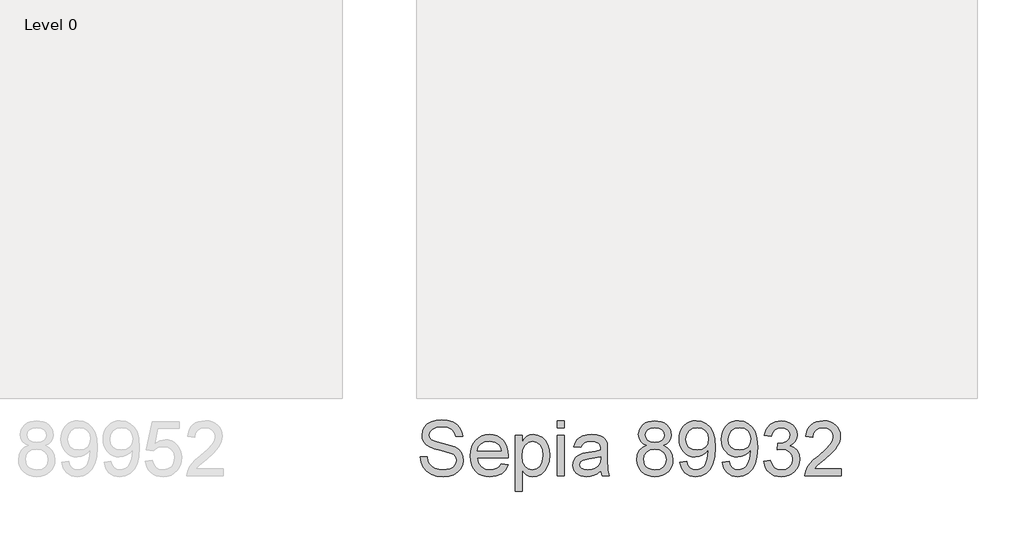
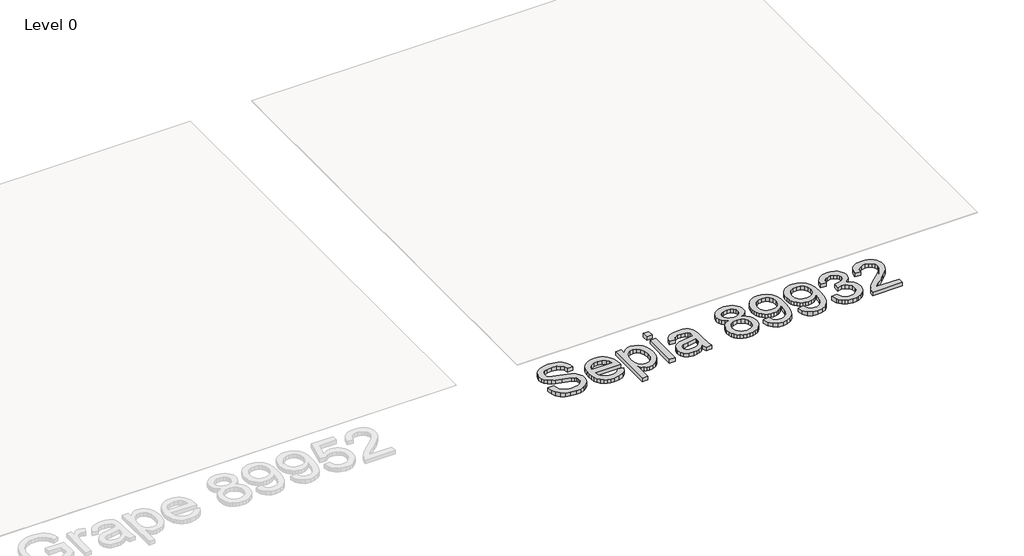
# One storey, part 4 of 4: 1 proxy.
"""IFC4 building model written with IfcOpenShell, lengths in millimetres."""

from ifc_helpers import new_model, si_unit, origin, origin_with_axes, place, context, project, spatial, polyline, outline, extrude, element, save

model = new_model("IFC4")

# Units and contexts
model_context = context("Model", 3, world=origin())
ifc_project = project(units=[si_unit("LENGTHUNIT", "METRE", prefix="MILLI")], contexts=[model_context])

# Site, building, storey
site = spatial("IfcSite", under=ifc_project)
building = spatial("IfcBuilding", under=site)
storey = spatial("IfcBuildingStorey", under=building, Name="Level 0", Elevation=0.0)

# Proxy
placement = place(None, origin())
element("IfcBuildingElementProxy", 1, Name="300mm Arial", ObjectType="300mm Arial", at=placement, inside=storey, context=model_context, shape_type="SweptSolid", body=[
    extrude(outline(polyline([(10071.9359991, 2245.9115217), (10108.859076, 2245.9115217), (10113.0958548, 2225.4217381), (10120.7581145, 2208.9523871), (10132.7112395, 2195.8814737), (10149.8206145, 2185.5870025), (10170.734076, 2178.907315), (10194.0994606, 2176.6807525), (10214.6703741, 2178.3664496), (10232.6811914, 2183.423541), (10247.2755423, 2191.4283487), (10257.5970568, 2201.9571948), (10263.7358789, 2214.0455362), (10265.7821529, 2226.7288294), (10264.249701, 2239.0876035), (10259.6523452, 2249.7696948), (10250.3134029, 2258.8832766), (10234.5561914, 2266.5365217), (10180.7941721, 2280.6350794), (10145.5027058, 2289.9650073), (10122.921576, 2298.8442141), (10104.5411673, 2311.2660891), (10091.515326, 2326.3201756), (10083.7539077, 2343.6819544), (10081.1667683, 2363.0269064), (10084.3668885, 2384.6525073), (10093.9672491, 2404.8177717), (10109.7154462, 2421.9091179), (10131.359076, 2434.3129641), (10157.3386433, 2441.8580362), (10186.0946529, 2444.3730602), (10217.2484991, 2441.7408487), (10244.5081145, 2433.8442141), (10266.8999414, 2420.845416), (10283.4504221, 2402.9067141), (10293.9251818, 2381.1458967), (10298.0898452, 2356.6807525), (10261.1667683, 2356.6807525), (10254.3879221, 2378.7120025), (10240.2533068, 2394.6134448), (10218.1679702, 2404.2408487), (10187.5369606, 2407.4499833), (10156.1847971, 2404.2769064), (10134.6763837, 2394.7576756), (10122.2364798, 2380.7492621), (10118.0898452, 2364.1086371), (10121.0285471, 2349.9199352), (10129.8446529, 2338.5076756), (10150.6859991, 2328.3033487), (10190.1331145, 2317.8826756), (10255.4696529, 2299.3490217), (10276.5183308, 2285.9535891), (10291.202826, 2269.4211371), (10299.8296289, 2249.9319544), (10302.7052298, 2227.6663294), (10299.3969366, 2204.9049112), (10289.4720568, 2183.4956564), (10273.3362395, 2165.0701756), (10251.3951337, 2151.2600794), (10225.0099173, 2142.6332766), (10195.5417683, 2139.7576756), (10159.3668885, 2142.8586371), (10129.5922491, 2152.1615217), (10105.875302, 2167.7023871), (10087.8734991, 2189.517291), (10076.3170087, 2216.0918102), (10071.9359991, 2245.9115217)])), origin_with_axes(), (0.0, 0.0, 1.0), 25.0),
    extrude(outline(polyline([(10505.3494606, 2208.9884448), (10541.5513837, 2204.3730602), (10528.5075135, 2177.095416), (10507.6932106, 2156.704791), (10479.577225, 2143.9944544), (10444.6283068, 2139.7576756), (10421.7181505, 2141.5853499), (10401.3049895, 2147.0683727), (10383.3888236, 2156.2067441), (10367.9696529, 2169.0004641), (10355.570314, 2185.0934629), (10346.7136433, 2204.1296708), (10341.3996409, 2226.1090879), (10339.6283068, 2251.0317141), (10341.4176697, 2276.7994424), (10346.7857587, 2299.5112814), (10355.7325736, 2319.1672309), (10368.2581145, 2335.767291), (10383.6367202, 2348.9553919), (10401.1427298, 2358.3754641), (10420.7761433, 2364.0275073), (10442.5369606, 2365.9115217), (10463.5969065, 2364.0320145), (10482.6421289, 2358.3934929), (10499.6726277, 2348.9959568), (10514.6884029, 2335.8394064), (10526.9457647, 2319.275404), (10535.7010231, 2299.6555121), (10540.9541782, 2276.9797309), (10542.7052298, 2251.2480602), (10542.4888837, 2241.2961371), (10376.5513837, 2241.2961371), (10382.9426096, 2213.657916), (10397.7893645, 2193.3394064), (10419.2166481, 2180.845416), (10445.3494606, 2176.6807525), (10465.0009029, 2178.6098391), (10481.5513837, 2184.3970987), (10495.0009029, 2194.4031083), (10505.3494606, 2208.9884448)]), holes=[polyline([(10376.5513837, 2278.2192141), (10505.7821529, 2278.2192141), (10500.7881625, 2297.7264256), (10490.9984991, 2311.6807525), (10469.4720568, 2324.6615217), (10442.3927298, 2328.9884448), (10417.5039077, 2325.5359208), (10396.9239798, 2315.1783487), (10382.6180904, 2299.0335169), (10376.5513837, 2278.2192141)])]), origin_with_axes(), (0.0, 0.0, 1.0), 25.0),
    extrude(outline(polyline([(10579.6283068, 2061.2961371), (10579.6283068, 2361.2961371), (10616.5513837, 2361.2961371), (10616.5513837, 2325.0942141), (10628.5946529, 2342.9517862), (10642.0802298, 2355.7071948), (10657.8013837, 2363.36044), (10676.5513837, 2365.9115217), (10701.5213356, 2362.3418102), (10723.3542683, 2351.6326756), (10741.1307106, 2334.4331564), (10753.9311914, 2311.392291), (10761.6655664, 2284.1867621), (10764.2436914, 2254.4932525), (10761.3320327, 2222.9157285), (10752.5970568, 2194.673541), (10738.3182106, 2171.1999833), (10718.7749414, 2153.9283487), (10696.0135231, 2143.3003439), (10672.0802298, 2139.7576756), (10655.1060712, 2142.1284689), (10639.952826, 2149.2408487), (10626.9810712, 2159.9770266), (10616.5513837, 2173.2192141), (10616.5513837, 2061.2961371), (10579.6283068, 2061.2961371)]), holes=[polyline([(10616.5513837, 2251.1038294), (10620.5447731, 2218.0028679), (10632.5249414, 2194.8538294), (10650.202225, 2181.2240217), (10671.2869606, 2176.6807525), (10692.7142443, 2181.3862814), (10710.8422491, 2195.5028679), (10723.2010231, 2219.4992621), (10727.3206145, 2253.8442141), (10723.3001818, 2286.7648871), (10711.2388837, 2310.2384448), (10693.5886433, 2324.3009448), (10672.8013837, 2328.9884448), (10651.9329943, 2324.0034689), (10633.6066721, 2309.048541), (10620.8152058, 2284.5924112), (10616.5513837, 2251.1038294)])]), origin_with_axes(), (0.0, 0.0, 1.0), 25.0),
    extrude(outline(polyline([(10805.7821529, 2402.8345987), (10805.7821529, 2439.7576756), (10842.7052298, 2439.7576756), (10842.7052298, 2402.8345987), (10805.7821529, 2402.8345987)])), origin_with_axes(), (0.0, 0.0, 1.0), 25.0),
    extrude(outline(polyline([(10805.7821529, 2144.3730602), (10805.7821529, 2361.2961371), (10842.7052298, 2361.2961371), (10842.7052298, 2144.3730602), (10805.7821529, 2144.3730602)])), origin_with_axes(), (0.0, 0.0, 1.0), 25.0),
    extrude(outline(polyline([(11036.5513837, 2172.0653679), (11018.9101577, 2156.939166), (11000.7460952, 2147.0413294), (10981.6445327, 2141.5785891), (10961.1908068, 2139.7576756), (10930.3344366, 2144.1386852), (10907.5730183, 2157.2817141), (10893.5375616, 2177.2396467), (10888.859076, 2202.0653679), (10890.6259029, 2217.3718583), (10895.9263837, 2231.2720987), (10904.1024654, 2243.1711371), (10914.4960952, 2252.4740217), (10940.3494606, 2264.5894064), (10972.296576, 2270.142291), (11010.0489798, 2275.9836371), (11036.3350375, 2282.8345987), (11036.5513837, 2291.0557525), (11034.0093164, 2307.5341179), (11026.3831145, 2318.3153679), (11009.327826, 2326.3201756), (10985.5658068, 2328.9884448), (10963.5706145, 2327.2126035), (10948.2100375, 2321.8850794), (10937.7352779, 2312.032315), (10930.3975375, 2296.6807525), (10893.4744606, 2301.2961371), (10899.8837154, 2321.4884448), (10909.4480183, 2337.3538294), (10923.0597971, 2349.4872429), (10941.6114798, 2358.4836371), (10964.3007827, 2364.0545506), (10990.3254221, 2365.9115217), (11015.2863596, 2364.2708967), (11035.0730183, 2359.3490217), (11049.9918885, 2351.9481804), (11060.3494606, 2342.8706564), (11067.218451, 2331.6476996), (11071.671576, 2317.8105602), (11073.4744606, 2285.5028679), (11073.4744606, 2239.5653679), (11075.3494606, 2175.4187333), (11082.7052298, 2144.3730602), (11045.7821529, 2144.3730602), (11036.5513837, 2172.0653679)]), holes=[polyline([(11036.5513837, 2245.9115217), (10976.984076, 2234.5894064), (10945.2172491, 2228.6038294), (10930.8302298, 2218.8682525), (10925.7821529, 2204.6615217), (10928.531552, 2193.6819544), (10936.7797491, 2184.6855602), (10950.3464558, 2178.6819544), (10969.0513837, 2176.6807525), (10988.8831145, 2178.8892862), (11006.4071529, 2185.5148871), (11020.6138837, 2195.2775073), (11030.4936914, 2206.8970987), (11034.874701, 2218.8682525), (11036.3350375, 2235.454791), (11036.5513837, 2245.9115217)])]), origin_with_axes(), (0.0, 0.0, 1.0), 25.0),
    extrude(outline(polyline([(11284.1956145, 2307.0653679), (11264.4269846, 2316.8009448), (11250.5537875, 2329.9980602), (11242.359677, 2346.3862814), (11239.6283068, 2365.6951756), (11245.577826, 2394.5593583), (11263.4263837, 2418.4115217), (11276.3125015, 2427.7504641), (11291.1727779, 2434.4211371), (11326.8158068, 2439.7576756), (11362.6751818, 2434.2949352), (11377.6977178, 2427.4665097), (11390.7821529, 2417.9067141), (11408.9552298, 2393.6759448), (11413.4984991, 2379.7757044), (11415.0129221, 2364.6855602), (11412.3176096, 2345.9986612), (11404.2316721, 2329.8898871), (11390.6649654, 2316.7739016), (11371.5273452, 2307.0653679), (11394.2527058, 2295.3556323), (11410.7941721, 2278.111041), (11420.8813116, 2256.1609208), (11424.2436914, 2230.3345987), (11422.5760231, 2211.9181323), (11417.5730183, 2195.0341179), (11409.234677, 2179.6825554), (11397.5609991, 2165.8634448), (11383.1649654, 2154.4421708), (11366.6595568, 2146.2841179), (11348.0447731, 2141.3892862), (11327.3206145, 2139.7576756), (11306.5964558, 2141.396047), (11287.9816721, 2146.3111612), (11271.4762635, 2154.5030181), (11257.0802298, 2165.9716179), (11245.406552, 2179.8876335), (11237.0682106, 2195.4217381), (11232.0652058, 2212.5739316), (11230.3975375, 2231.3442141), (11233.8951337, 2258.1711371), (11244.3879221, 2280.2384448), (11261.3350375, 2296.7889256), (11284.1956145, 2307.0653679)]), holes=[polyline([(11267.3206145, 2232.642291), (11273.4864798, 2204.8418102), (11282.0231385, 2192.9157285), (11295.3013837, 2184.0365217), (11311.202826, 2178.5196948), (11327.609076, 2176.6807525), (11352.7412875, 2180.54794), (11371.5994606, 2192.1495025), (11383.390326, 2209.7186131), (11387.3206145, 2231.4884448), (11383.2641241, 2253.6278679), (11371.0946529, 2271.5845987), (11351.8037875, 2283.4836371), (11326.3831145, 2287.4499833), (11301.6024654, 2283.5377237), (11282.9335952, 2271.8009448), (11271.2238596, 2254.1867621), (11267.3206145, 2232.642291)]), polyline([(11276.5513837, 2364.6134448), (11279.8236193, 2348.4956564), (11289.640326, 2335.6230602), (11305.7130423, 2327.1855602), (11327.7533068, 2324.3730602), (11349.2797491, 2327.1675314), (11365.109076, 2335.5509448), (11374.8446529, 2347.9908487), (11378.0898452, 2362.954791), (11374.7364798, 2378.4866419), (11364.6763837, 2391.3321948), (11348.6307106, 2399.9589977), (11327.3206145, 2402.8345987), (11305.875302, 2400.0220987), (11289.8566721, 2391.5845987), (11279.8777058, 2379.2168102), (11276.5513837, 2364.6134448)])]), origin_with_axes(), (0.0, 0.0, 1.0), 25.0),
    extrude(outline(polyline([(11461.1667683, 2218.2192141), (11498.0898452, 2222.8345987), (11504.3999414, 2201.876065), (11514.6763837, 2187.6062333), (11528.6667683, 2179.4121227), (11546.1186914, 2176.6807525), (11561.7767443, 2178.438565), (11576.0105183, 2183.7120025), (11587.8374414, 2191.9241419), (11596.2749414, 2202.4980602), (11608.3542683, 2234.5894064), (11613.6908068, 2277.4259448), (11613.4744606, 2284.6374833), (11600.6829943, 2269.0245025), (11583.9432106, 2256.6567141), (11564.4630423, 2248.5978198), (11543.4504221, 2245.9115217), (11525.9106084, 2247.5521467), (11509.781552, 2252.4740217), (11495.0632527, 2260.6771467), (11481.7557106, 2272.1615217), (11470.7288176, 2286.3276876), (11462.8524654, 2302.5761852), (11458.1266541, 2320.9070145), (11456.5513837, 2341.3201756), (11458.2032767, 2362.4139256), (11463.1589558, 2381.3442141), (11471.4184209, 2398.111041), (11482.9816721, 2412.7144064), (11497.0329041, 2424.5458367), (11512.7563116, 2432.9968583), (11530.1518945, 2438.0674713), (11549.2196529, 2439.7576756), (11576.7587154, 2435.8995025), (11601.827826, 2424.3249833), (11622.7953741, 2405.611041), (11638.0297491, 2380.3345987), (11647.3055904, 2345.3946948), (11650.3975375, 2297.6903679), (11647.3146048, 2247.11044), (11638.0658068, 2208.0148871), (11622.7322731, 2178.6368823), (11601.3951337, 2157.2095987), (11574.9738596, 2144.1206564), (11544.3879221, 2139.7576756), (11512.8194125, 2144.9049112), (11487.6331145, 2160.3466179), (11470.0189318, 2185.1092381), (11461.1667683, 2218.2192141)]), holes=[polyline([(11613.4744606, 2342.1855602), (11609.4900856, 2367.2095987), (11597.5369606, 2386.4644064), (11578.9852779, 2398.7420506), (11555.2052298, 2402.8345987), (11530.5417683, 2398.4265458), (11510.7821529, 2385.2023871), (11497.8013837, 2364.9650073), (11493.4744606, 2339.517291), (11497.5670087, 2316.7017862), (11509.8446529, 2298.5918102), (11529.1174895, 2286.7739016), (11554.1956145, 2282.8345987), (11577.7863596, 2286.7739016), (11596.7797491, 2298.5918102), (11609.3007827, 2317.3688535), (11613.4744606, 2342.1855602)])]), origin_with_axes(), (0.0, 0.0, 1.0), 25.0),
    extrude(outline(polyline([(11687.3206145, 2218.2192141), (11724.2436914, 2222.8345987), (11730.5537875, 2201.876065), (11740.8302298, 2187.6062333), (11754.8206145, 2179.4121227), (11772.2725375, 2176.6807525), (11787.9305904, 2178.438565), (11802.1643645, 2183.7120025), (11813.9912875, 2191.9241419), (11822.4287875, 2202.4980602), (11834.5081145, 2234.5894064), (11839.8446529, 2277.4259448), (11839.6283068, 2284.6374833), (11826.8368404, 2269.0245025), (11810.0970568, 2256.6567141), (11790.6168885, 2248.5978198), (11769.6042683, 2245.9115217), (11752.0644546, 2247.5521467), (11735.9353981, 2252.4740217), (11721.2170988, 2260.6771467), (11707.9095568, 2272.1615217), (11696.8826637, 2286.3276876), (11689.0063116, 2302.5761852), (11684.2805003, 2320.9070145), (11682.7052298, 2341.3201756), (11684.3571229, 2362.4139256), (11689.312802, 2381.3442141), (11697.5722671, 2398.111041), (11709.1355183, 2412.7144064), (11723.1867503, 2424.5458367), (11738.9101577, 2432.9968583), (11756.3057407, 2438.0674713), (11775.3734991, 2439.7576756), (11802.9125616, 2435.8995025), (11827.9816721, 2424.3249833), (11848.9492202, 2405.611041), (11864.1835952, 2380.3345987), (11873.4594366, 2345.3946948), (11876.5513837, 2297.6903679), (11873.468451, 2247.11044), (11864.2196529, 2208.0148871), (11848.8861193, 2178.6368823), (11827.5489798, 2157.2095987), (11801.1277058, 2144.1206564), (11770.5417683, 2139.7576756), (11738.9732587, 2144.9049112), (11713.7869606, 2160.3466179), (11696.1727779, 2185.1092381), (11687.3206145, 2218.2192141)]), holes=[polyline([(11839.6283068, 2342.1855602), (11835.6439318, 2367.2095987), (11823.6908068, 2386.4644064), (11805.1391241, 2398.7420506), (11781.359076, 2402.8345987), (11756.6956145, 2398.4265458), (11736.9359991, 2385.2023871), (11723.9552298, 2364.9650073), (11719.6283068, 2339.517291), (11723.7208548, 2316.7017862), (11735.9984991, 2298.5918102), (11755.2713356, 2286.7739016), (11780.3494606, 2282.8345987), (11803.9402058, 2286.7739016), (11822.9335952, 2298.5918102), (11835.4546289, 2317.3688535), (11839.6283068, 2342.1855602)])]), origin_with_axes(), (0.0, 0.0, 1.0), 25.0),
    extrude(outline(polyline([(11908.859076, 2222.8345987), (11945.7821529, 2227.4499833), (11954.0483789, 2204.2468583), (11966.1547491, 2188.579791), (11982.6962154, 2179.6555121), (12004.2677298, 2176.6807525), (12029.5802298, 2180.7733006), (12049.1234991, 2193.0509448), (12061.6174895, 2211.3682525), (12065.7821529, 2233.579791), (12061.6535471, 2254.6645266), (12049.2677298, 2271.7648871), (12030.5177298, 2283.0960169), (12007.296576, 2286.8730602), (11981.4071529, 2282.8345987), (11985.5177298, 2319.7576756), (11991.4311914, 2319.3249833), (12013.5525856, 2321.9752237), (12033.3302298, 2329.9259448), (12047.2845568, 2343.3754641), (12051.9359991, 2362.5220987), (12048.5646048, 2378.4686131), (12038.4504221, 2391.4043102), (12023.0177298, 2399.9770266), (12003.6908068, 2402.8345987), (11984.327826, 2399.9499833), (11968.4984991, 2391.2961371), (11956.9420087, 2376.8730602), (11950.3975375, 2356.6807525), (11913.4744606, 2361.2961371), (11924.3458548, 2394.4511852), (11943.6908068, 2419.204791), (11970.1571529, 2434.6194544), (12002.3927298, 2439.7576756), (12025.6048693, 2437.2246227), (12046.9239798, 2429.6254641), (12064.8987395, 2417.6362814), (12078.077826, 2401.9331564), (12086.1637635, 2383.8412092), (12088.859076, 2364.6855602), (12086.2989798, 2346.8370025), (12078.6186914, 2330.6470987), (12065.9263837, 2316.8550314), (12048.3302298, 2306.1999833), (12071.4432106, 2296.861041), (12088.5706145, 2280.9595987), (12099.171576, 2259.361041), (12102.7052298, 2232.9307525), (12100.9384029, 2214.1987814), (12095.6379221, 2196.9451756), (12086.8037875, 2181.1699352), (12074.4359991, 2166.8730602), (12059.3683909, 2155.0100794), (12042.4347971, 2146.5365217), (12023.6352178, 2141.4523871), (12002.9696529, 2139.7576756), (11967.2725375, 2145.5449352), (11951.9119606, 2152.7790097), (11938.2100375, 2162.9067141), (11926.7211553, 2175.3330963), (11917.999701, 2189.4632044), (11908.859076, 2222.8345987)])), origin_with_axes(), (0.0, 0.0, 1.0), 25.0),
    extrude(outline(polyline([(12324.2436914, 2181.2961371), (12324.2436914, 2144.3730602), (12130.3975375, 2144.3730602), (12134.3638837, 2169.829791), (12143.468451, 2189.7246227), (12156.7917683, 2209.0245025), (12176.0646048, 2229.2258246), (12203.0177298, 2251.8249833), (12242.8614798, 2287.2156083), (12266.7677298, 2313.3394064), (12278.7208548, 2334.5413294), (12282.7052298, 2355.1663294), (12278.9462154, 2373.6549112), (12267.6691721, 2389.0245025), (12250.3344366, 2399.3820746), (12228.4023452, 2402.8345987), (12205.3704943, 2399.4632044), (12187.4768645, 2389.3490217), (12175.9293885, 2373.2853198), (12171.9359991, 2352.0653679), (12135.0129221, 2356.6807525), (12143.9642443, 2392.3958967), (12152.3408969, 2406.6431924), (12163.3182106, 2418.4836371), (12176.6437815, 2427.791029), (12192.0652058, 2434.439166), (12229.1956145, 2439.7576756), (12248.9845267, 2438.2793102), (12266.5964558, 2433.8442141), (12282.0314017, 2426.4523871), (12295.2893645, 2416.1038294), (12305.9376517, 2403.5647669), (12313.5435712, 2389.6014256), (12318.1071229, 2374.2138054), (12319.6283068, 2357.4019064), (12317.9876818, 2339.7426516), (12313.0658068, 2322.3898871), (12304.3308308, 2304.7396467), (12291.2509029, 2286.1879641), (12270.4005423, 2264.0395266), (12238.3542683, 2235.5990217), (12195.8783068, 2200.0821948), (12179.2196529, 2181.2961371), (12324.2436914, 2181.2961371)])), origin_with_axes(), (0.0, 0.0, 1.0), 25.0),
])

save(model, "model.ifc")
